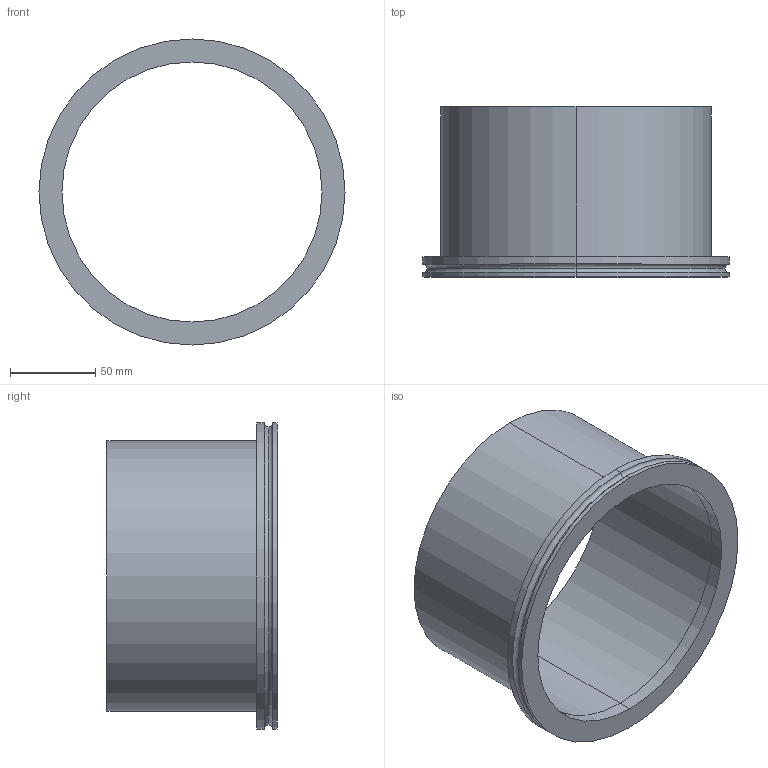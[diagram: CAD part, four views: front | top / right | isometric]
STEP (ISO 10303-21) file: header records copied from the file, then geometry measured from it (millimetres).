
FILE_DESCRIPTION (( 'STEP AP214' ), '1' );
FILE_NAME ('W4KR160.STEP', '2019-04-05T08:30:12', ( '' ), ( '' ), 'SwSTEP 2.0', 'SolidWorks 2018', '' );
FILE_SCHEMA (( 'AUTOMOTIVE_DESIGN' ));
Length unit declared in the file: millimetre
Products named in the file (1): W4KR160
Bounding box: 180 x 100 x 180 mm (x, y, z)
Volume: 199689.6 mm3; surface area: 121511.2 mm2
Topology: 2 solids, 2 shells, 24 faces, 48 edges, 30 vertices
Faces by surface type: cylinder 14, plane 6, torus 4
Entity records: 689 total; most frequent: DIRECTION 132, CARTESIAN_POINT 103, ORIENTED_EDGE 96, AXIS2_PLACEMENT_3D 59, EDGE_CURVE 48, CIRCLE 34, VERTEX_POINT 30, EDGE_LOOP 30
